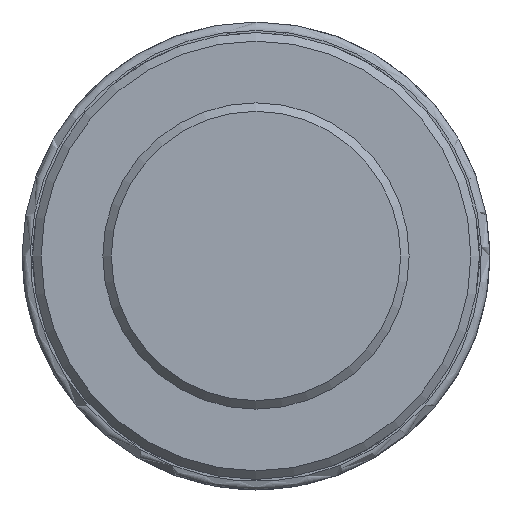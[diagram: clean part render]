
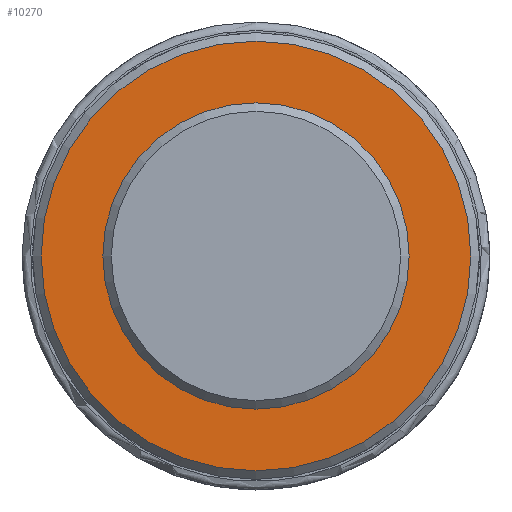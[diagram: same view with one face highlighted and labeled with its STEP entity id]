
A CAD part, front view. The second image highlights one B-rep face of the part: STEP entity #10270.
In plain terms, the highlighted planar face has unit normal (0, -1, 0) as drawn and (0, 1, 0) by its records, which use the part's own axes.
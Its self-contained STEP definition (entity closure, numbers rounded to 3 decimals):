
#73=CIRCLE('',#10594,50.5);
#364=PLANE('',#10597);
#916=FACE_OUTER_BOUND('',#1542,.T.);
#1542=EDGE_LOOP('',(#9360));
#4860=VERTEX_POINT('',#19262);
#6365=EDGE_CURVE('',#4860,#4860,#73,.T.);
#9360=ORIENTED_EDGE('',*,*,#6365,.F.);
#10270=ADVANCED_FACE('',(#916),#364,.T.);
#10594=AXIS2_PLACEMENT_3D('',#19263,#11923,#11924);
#10597=AXIS2_PLACEMENT_3D('',#19501,#11929,#11930);
#11923=DIRECTION('center_axis',(0.,-1.,0.));
#11924=DIRECTION('ref_axis',(1.,0.,0.));
#11929=DIRECTION('center_axis',(0.,1.,0.));
#11930=DIRECTION('ref_axis',(0.,0.,1.));
#19262=CARTESIAN_POINT('',(-50.5,45.,0.));
#19263=CARTESIAN_POINT('Origin',(0.,45.,0.));
#19501=CARTESIAN_POINT('Origin',(0.,45.,0.));
